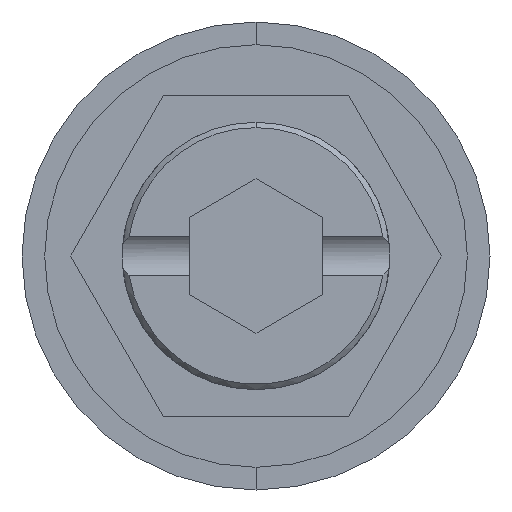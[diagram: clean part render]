
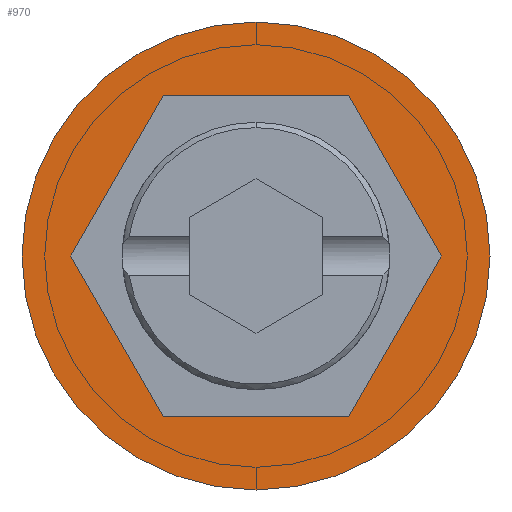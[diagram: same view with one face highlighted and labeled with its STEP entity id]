
A CAD part, front view. The second image highlights one B-rep face of the part: STEP entity #970.
In plain terms, the highlighted planar face has unit normal (0, -1, 0).
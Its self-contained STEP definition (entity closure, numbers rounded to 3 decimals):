
#38 = VECTOR ( 'NONE', #1851, 1000. ) ;
#45 = DIRECTION ( 'NONE',  ( 0., -1., 0. ) ) ;
#133 = EDGE_LOOP ( 'NONE', ( #929, #2189 ) ) ;
#154 = EDGE_CURVE ( 'NONE', #1894, #1828, #1623, .T. ) ;
#277 = ORIENTED_EDGE ( 'NONE', *, *, #1076, .F. ) ;
#280 = VERTEX_POINT ( 'NONE', #625 ) ;
#304 = ORIENTED_EDGE ( 'NONE', *, *, #2088, .F. ) ;
#315 = FACE_BOUND ( 'NONE', #655, .T. ) ;
#420 = VECTOR ( 'NONE', #603, 1000. ) ;
#426 = VECTOR ( 'NONE', #1584, 1000. ) ;
#431 = VERTEX_POINT ( 'NONE', #2055 ) ;
#434 = DIRECTION ( 'NONE',  ( 0., -1., 0. ) ) ;
#468 = ORIENTED_EDGE ( 'NONE', *, *, #154, .F. ) ;
#516 = EDGE_CURVE ( 'NONE', #1683, #1074, #2000, .T. ) ;
#581 = CARTESIAN_POINT ( 'NONE',  ( -3.464, 0., -6. ) ) ;
#603 = DIRECTION ( 'NONE',  ( -1., 0., 0. ) ) ;
#625 = CARTESIAN_POINT ( 'NONE',  ( 6.928, 0., 0. ) ) ;
#655 = EDGE_LOOP ( 'NONE', ( #277, #468, #1870, #304, #1313, #1210 ) ) ;
#707 = VECTOR ( 'NONE', #1743, 1000. ) ;
#745 = LINE ( 'NONE', #788, #420 ) ;
#788 = CARTESIAN_POINT ( 'NONE',  ( 3.464, 0., 6. ) ) ;
#857 = PLANE ( 'NONE',  #894 ) ;
#894 = AXIS2_PLACEMENT_3D ( 'NONE', #1064, #1328, #1308 ) ;
#929 = ORIENTED_EDGE ( 'NONE', *, *, #516, .T. ) ;
#937 = EDGE_CURVE ( 'NONE', #1074, #1683, #1709, .T. ) ;
#943 = EDGE_CURVE ( 'NONE', #280, #431, #1964, .T. ) ;
#962 = LINE ( 'NONE', #581, #38 ) ;
#970 = ADVANCED_FACE ( 'NONE', ( #315, #1200 ), #857, .T. ) ;
#993 = CARTESIAN_POINT ( 'NONE',  ( 0., 0., 8.75 ) ) ;
#1001 = EDGE_CURVE ( 'NONE', #1440, #280, #1280, .T. ) ;
#1060 = CARTESIAN_POINT ( 'NONE',  ( -3.464, 0., -6. ) ) ;
#1064 = CARTESIAN_POINT ( 'NONE',  ( 0., 0., 0. ) ) ;
#1074 = VERTEX_POINT ( 'NONE', #993 ) ;
#1076 = EDGE_CURVE ( 'NONE', #1828, #1440, #962, .T. ) ;
#1118 = VECTOR ( 'NONE', #1732, 1000. ) ;
#1200 = FACE_OUTER_BOUND ( 'NONE', #133, .T. ) ;
#1202 = CARTESIAN_POINT ( 'NONE',  ( 0., 0., -8.75 ) ) ;
#1210 = ORIENTED_EDGE ( 'NONE', *, *, #1001, .F. ) ;
#1258 = AXIS2_PLACEMENT_3D ( 'NONE', #1641, #434, #1463 ) ;
#1280 = LINE ( 'NONE', #1497, #426 ) ;
#1306 = VERTEX_POINT ( 'NONE', #1869 ) ;
#1308 = DIRECTION ( 'NONE',  ( 0., 0., -1. ) ) ;
#1313 = ORIENTED_EDGE ( 'NONE', *, *, #943, .F. ) ;
#1328 = DIRECTION ( 'NONE',  ( 0., -1., 0. ) ) ;
#1358 = EDGE_CURVE ( 'NONE', #1306, #1894, #2217, .T. ) ;
#1433 = CARTESIAN_POINT ( 'NONE',  ( -3.464, 0., 6. ) ) ;
#1440 = VERTEX_POINT ( 'NONE', #2096 ) ;
#1441 = CARTESIAN_POINT ( 'NONE',  ( 0., 0., 0. ) ) ;
#1463 = DIRECTION ( 'NONE',  ( 0., 0., -1. ) ) ;
#1483 = CARTESIAN_POINT ( 'NONE',  ( -6.928, 0., 0. ) ) ;
#1497 = CARTESIAN_POINT ( 'NONE',  ( 3.464, 0., -6. ) ) ;
#1543 = VECTOR ( 'NONE', #1763, 1000. ) ;
#1583 = AXIS2_PLACEMENT_3D ( 'NONE', #1441, #45, #1841 ) ;
#1584 = DIRECTION ( 'NONE',  ( 0.5, 0., 0.866 ) ) ;
#1623 = LINE ( 'NONE', #1483, #707 ) ;
#1641 = CARTESIAN_POINT ( 'NONE',  ( 0., 0., 0. ) ) ;
#1683 = VERTEX_POINT ( 'NONE', #1202 ) ;
#1709 = CIRCLE ( 'NONE', #1583, 8.75 ) ;
#1732 = DIRECTION ( 'NONE',  ( -0.5, 0., 0.866 ) ) ;
#1743 = DIRECTION ( 'NONE',  ( 0.5, 0., -0.866 ) ) ;
#1763 = DIRECTION ( 'NONE',  ( -0.5, 0., -0.866 ) ) ;
#1828 = VERTEX_POINT ( 'NONE', #1060 ) ;
#1841 = DIRECTION ( 'NONE',  ( 0., 0., -1. ) ) ;
#1851 = DIRECTION ( 'NONE',  ( 1., 0., 0. ) ) ;
#1869 = CARTESIAN_POINT ( 'NONE',  ( -3.464, 0., 6. ) ) ;
#1870 = ORIENTED_EDGE ( 'NONE', *, *, #1358, .F. ) ;
#1894 = VERTEX_POINT ( 'NONE', #2114 ) ;
#1922 = CARTESIAN_POINT ( 'NONE',  ( 6.928, 0., 0. ) ) ;
#1964 = LINE ( 'NONE', #1922, #1118 ) ;
#2000 = CIRCLE ( 'NONE', #1258, 8.75 ) ;
#2055 = CARTESIAN_POINT ( 'NONE',  ( 3.464, 0., 6. ) ) ;
#2088 = EDGE_CURVE ( 'NONE', #431, #1306, #745, .T. ) ;
#2096 = CARTESIAN_POINT ( 'NONE',  ( 3.464, 0., -6. ) ) ;
#2114 = CARTESIAN_POINT ( 'NONE',  ( -6.928, 0., 0. ) ) ;
#2189 = ORIENTED_EDGE ( 'NONE', *, *, #937, .T. ) ;
#2217 = LINE ( 'NONE', #1433, #1543 ) ;
